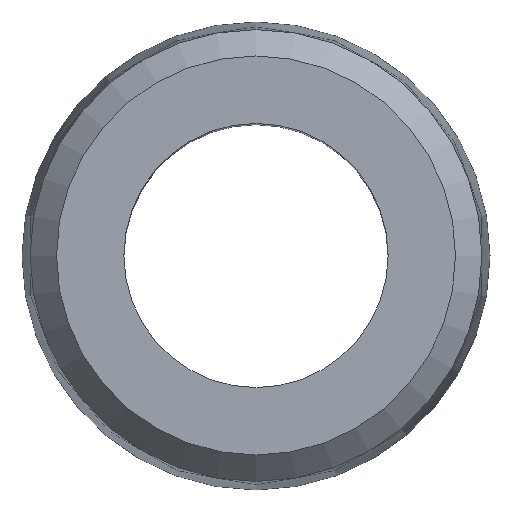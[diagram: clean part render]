
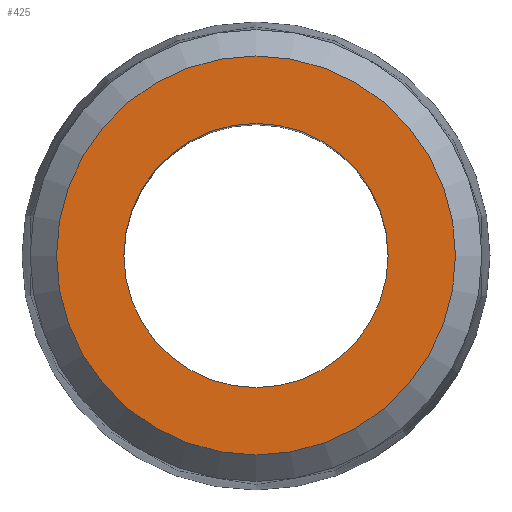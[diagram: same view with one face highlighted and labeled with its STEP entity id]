
A CAD part, top view. The second image highlights one B-rep face of the part: STEP entity #425.
In plain terms, the highlighted planar face has unit normal (0, 0, 1).
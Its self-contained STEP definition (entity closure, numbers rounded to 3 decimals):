
#19=FACE_BOUND('',#100,.T.);
#48=CIRCLE('',#494,9.06);
#49=CIRCLE('',#495,6.);
#73=FACE_OUTER_BOUND('',#99,.T.);
#99=EDGE_LOOP('',(#336));
#100=EDGE_LOOP('',(#337));
#200=VERTEX_POINT('',#762);
#201=VERTEX_POINT('',#764);
#256=EDGE_CURVE('',#200,#200,#48,.T.);
#257=EDGE_CURVE('',#201,#201,#49,.T.);
#336=ORIENTED_EDGE('',*,*,#256,.F.);
#337=ORIENTED_EDGE('',*,*,#257,.T.);
#405=PLANE('',#493);
#425=ADVANCED_FACE('',(#73,#19),#405,.T.);
#493=AXIS2_PLACEMENT_3D('',#761,#602,#603);
#494=AXIS2_PLACEMENT_3D('',#763,#604,#605);
#495=AXIS2_PLACEMENT_3D('',#765,#606,#607);
#602=DIRECTION('center_axis',(0.,0.,1.));
#603=DIRECTION('ref_axis',(1.,0.,0.));
#604=DIRECTION('center_axis',(0.,0.,-1.));
#605=DIRECTION('ref_axis',(1.,0.,0.));
#606=DIRECTION('center_axis',(0.,0.,-1.));
#607=DIRECTION('ref_axis',(1.,0.,0.));
#761=CARTESIAN_POINT('Origin',(0.,9.06,17.));
#762=CARTESIAN_POINT('',(0.,-9.06,17.));
#763=CARTESIAN_POINT('Origin',(0.,0.,17.));
#764=CARTESIAN_POINT('',(0.,-6.,17.));
#765=CARTESIAN_POINT('Origin',(0.,0.,17.));
